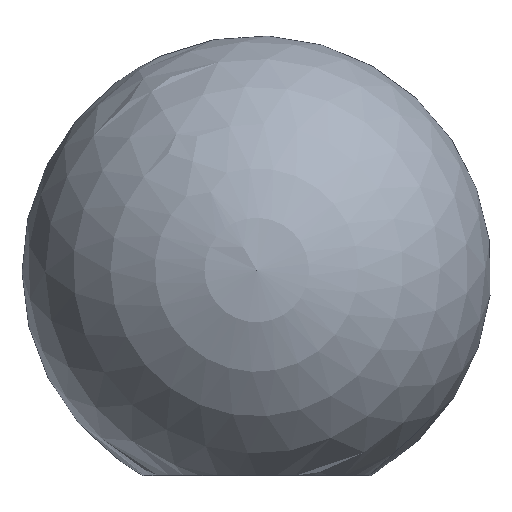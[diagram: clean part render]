
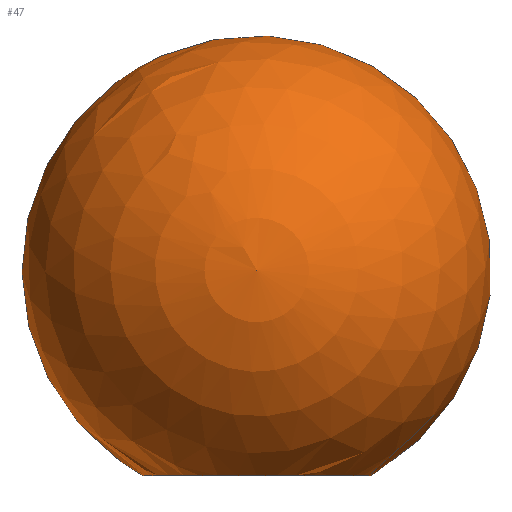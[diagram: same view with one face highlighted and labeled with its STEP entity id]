
A CAD part, top view. The second image highlights one B-rep face of the part: STEP entity #47.
In plain terms, the highlighted spherical face has radius 8 mm.
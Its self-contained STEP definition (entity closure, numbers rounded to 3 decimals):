
#5 = CARTESIAN_POINT ( 'NONE',  ( 0., 0., -3.873 ) ) ;
#7 = VERTEX_POINT ( 'NONE', #5 ) ;
#41 = DIRECTION ( 'NONE',  ( 1., 0., 0. ) ) ;
#46 = EDGE_CURVE ( 'NONE', #7, #7, #60, .T. ) ;
#47 = ADVANCED_FACE ( 'NONE', ( #133 ), #134, .T. ) ;
#60 = CIRCLE ( 'NONE', #159, 3.873 ) ;
#61 = DIRECTION ( 'NONE',  ( 0., 0., 1. ) ) ;
#76 = ORIENTED_EDGE ( 'NONE', *, *, #46, .F. ) ;
#82 = AXIS2_PLACEMENT_3D ( 'NONE', #139, #61, #41 ) ;
#89 = EDGE_LOOP ( 'NONE', ( #76 ) ) ;
#126 = CARTESIAN_POINT ( 'NONE',  ( 0., 0., 0. ) ) ;
#130 = DIRECTION ( 'NONE',  ( 0., -1., 0. ) ) ;
#131 = DIRECTION ( 'NONE',  ( 0., 0., -1. ) ) ;
#133 = FACE_OUTER_BOUND ( 'NONE', #89, .T. ) ;
#134 = SPHERICAL_SURFACE ( 'NONE', #82, 8. ) ;
#139 = CARTESIAN_POINT ( 'NONE',  ( 0., 7., 0. ) ) ;
#159 = AXIS2_PLACEMENT_3D ( 'NONE', #126, #130, #131 ) ;
